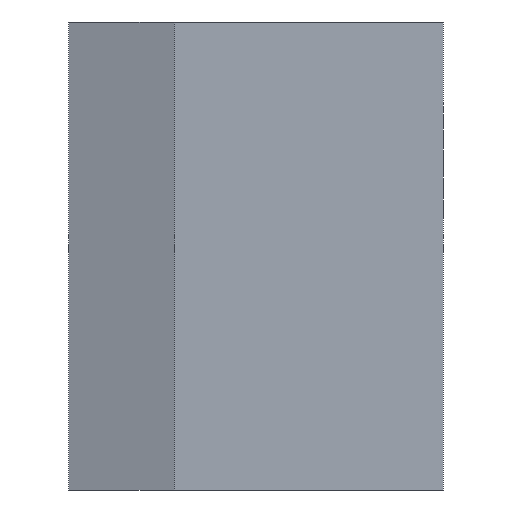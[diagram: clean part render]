
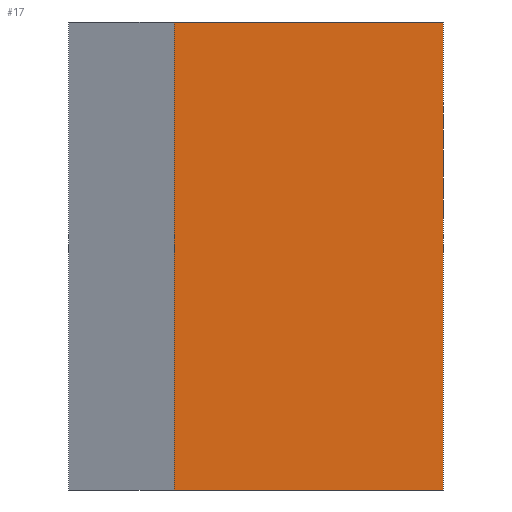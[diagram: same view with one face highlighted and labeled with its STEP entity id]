
A CAD part, front view. The second image highlights one B-rep face of the part: STEP entity #17.
In plain terms, the highlighted planar face has unit normal (0, -1, 0).
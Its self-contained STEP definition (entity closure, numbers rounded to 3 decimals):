
#17 = ADVANCED_FACE('',(#18),#32,.T.);
#18 = FACE_BOUND('',#19,.T.);
#19 = EDGE_LOOP('',(#20,#55,#83,#111));
#20 = ORIENTED_EDGE('',*,*,#21,.T.);
#21 = EDGE_CURVE('',#22,#24,#26,.T.);
#22 = VERTEX_POINT('',#23);
#23 = CARTESIAN_POINT('',(17.,-124.823,-112.54));
#24 = VERTEX_POINT('',#25);
#25 = CARTESIAN_POINT('',(17.,-124.823,-102.54));
#26 = SURFACE_CURVE('',#27,(#31,#43),.PCURVE_S1.);
#27 = LINE('',#28,#29);
#28 = CARTESIAN_POINT('',(17.,-124.823,-112.54));
#29 = VECTOR('',#30,1.);
#30 = DIRECTION('',(0.,0.,1.));
#31 = PCURVE('',#32,#37);
#32 = PLANE('',#33);
#33 = AXIS2_PLACEMENT_3D('',#34,#35,#36);
#34 = CARTESIAN_POINT('',(17.,-124.823,-112.54));
#35 = DIRECTION('',(0.,-1.,0.));
#36 = DIRECTION('',(-1.,0.,0.));
#37 = DEFINITIONAL_REPRESENTATION('',(#38),#42);
#38 = LINE('',#39,#40);
#39 = CARTESIAN_POINT('',(0.,0.));
#40 = VECTOR('',#41,1.);
#41 = DIRECTION('',(0.,-1.));
#42 = ( GEOMETRIC_REPRESENTATION_CONTEXT(2) 
PARAMETRIC_REPRESENTATION_CONTEXT() REPRESENTATION_CONTEXT('2D SPACE',''
  ) );
#43 = PCURVE('',#44,#49);
#44 = PLANE('',#45);
#45 = AXIS2_PLACEMENT_3D('',#46,#47,#48);
#46 = CARTESIAN_POINT('',(17.,-31.823,-112.54));
#47 = DIRECTION('',(1.,0.,0.));
#48 = DIRECTION('',(0.,-1.,0.));
#49 = DEFINITIONAL_REPRESENTATION('',(#50),#54);
#50 = LINE('',#51,#52);
#51 = CARTESIAN_POINT('',(93.,0.));
#52 = VECTOR('',#53,1.);
#53 = DIRECTION('',(0.,-1.));
#54 = ( GEOMETRIC_REPRESENTATION_CONTEXT(2) 
PARAMETRIC_REPRESENTATION_CONTEXT() REPRESENTATION_CONTEXT('2D SPACE',''
  ) );
#55 = ORIENTED_EDGE('',*,*,#56,.T.);
#56 = EDGE_CURVE('',#24,#57,#59,.T.);
#57 = VERTEX_POINT('',#58);
#58 = CARTESIAN_POINT('',(11.25,-124.823,-102.54));
#59 = SURFACE_CURVE('',#60,(#64,#71),.PCURVE_S1.);
#60 = LINE('',#61,#62);
#61 = CARTESIAN_POINT('',(17.,-124.823,-102.54));
#62 = VECTOR('',#63,1.);
#63 = DIRECTION('',(-1.,0.,0.));
#64 = PCURVE('',#32,#65);
#65 = DEFINITIONAL_REPRESENTATION('',(#66),#70);
#66 = LINE('',#67,#68);
#67 = CARTESIAN_POINT('',(0.,-10.));
#68 = VECTOR('',#69,1.);
#69 = DIRECTION('',(1.,0.));
#70 = ( GEOMETRIC_REPRESENTATION_CONTEXT(2) 
PARAMETRIC_REPRESENTATION_CONTEXT() REPRESENTATION_CONTEXT('2D SPACE',''
  ) );
#71 = PCURVE('',#72,#77);
#72 = PLANE('',#73);
#73 = AXIS2_PLACEMENT_3D('',#74,#75,#76);
#74 = CARTESIAN_POINT('',(12.484,-78.623,-102.54));
#75 = DIRECTION('',(0.,-0.,-1.));
#76 = DIRECTION('',(0.,-1.,0.));
#77 = DEFINITIONAL_REPRESENTATION('',(#78),#82);
#78 = LINE('',#79,#80);
#79 = CARTESIAN_POINT('',(46.2,-4.516));
#80 = VECTOR('',#81,1.);
#81 = DIRECTION('',(0.,1.));
#82 = ( GEOMETRIC_REPRESENTATION_CONTEXT(2) 
PARAMETRIC_REPRESENTATION_CONTEXT() REPRESENTATION_CONTEXT('2D SPACE',''
  ) );
#83 = ORIENTED_EDGE('',*,*,#84,.F.);
#84 = EDGE_CURVE('',#85,#57,#87,.T.);
#85 = VERTEX_POINT('',#86);
#86 = CARTESIAN_POINT('',(11.25,-124.823,-112.54));
#87 = SURFACE_CURVE('',#88,(#92,#99),.PCURVE_S1.);
#88 = LINE('',#89,#90);
#89 = CARTESIAN_POINT('',(11.25,-124.823,-112.54));
#90 = VECTOR('',#91,1.);
#91 = DIRECTION('',(0.,0.,1.));
#92 = PCURVE('',#32,#93);
#93 = DEFINITIONAL_REPRESENTATION('',(#94),#98);
#94 = LINE('',#95,#96);
#95 = CARTESIAN_POINT('',(5.75,0.));
#96 = VECTOR('',#97,1.);
#97 = DIRECTION('',(0.,-1.));
#98 = ( GEOMETRIC_REPRESENTATION_CONTEXT(2) 
PARAMETRIC_REPRESENTATION_CONTEXT() REPRESENTATION_CONTEXT('2D SPACE',''
  ) );
#99 = PCURVE('',#100,#105);
#100 = PLANE('',#101);
#101 = AXIS2_PLACEMENT_3D('',#102,#103,#104);
#102 = CARTESIAN_POINT('',(11.25,-124.823,-112.54));
#103 = DIRECTION('',(-1.,0.,0.));
#104 = DIRECTION('',(0.,1.,0.));
#105 = DEFINITIONAL_REPRESENTATION('',(#106),#110);
#106 = LINE('',#107,#108);
#107 = CARTESIAN_POINT('',(0.,0.));
#108 = VECTOR('',#109,1.);
#109 = DIRECTION('',(0.,-1.));
#110 = ( GEOMETRIC_REPRESENTATION_CONTEXT(2) 
PARAMETRIC_REPRESENTATION_CONTEXT() REPRESENTATION_CONTEXT('2D SPACE',''
  ) );
#111 = ORIENTED_EDGE('',*,*,#112,.F.);
#112 = EDGE_CURVE('',#22,#85,#113,.T.);
#113 = SURFACE_CURVE('',#114,(#118,#125),.PCURVE_S1.);
#114 = LINE('',#115,#116);
#115 = CARTESIAN_POINT('',(17.,-124.823,-112.54));
#116 = VECTOR('',#117,1.);
#117 = DIRECTION('',(-1.,0.,0.));
#118 = PCURVE('',#32,#119);
#119 = DEFINITIONAL_REPRESENTATION('',(#120),#124);
#120 = LINE('',#121,#122);
#121 = CARTESIAN_POINT('',(0.,0.));
#122 = VECTOR('',#123,1.);
#123 = DIRECTION('',(1.,0.));
#124 = ( GEOMETRIC_REPRESENTATION_CONTEXT(2) 
PARAMETRIC_REPRESENTATION_CONTEXT() REPRESENTATION_CONTEXT('2D SPACE',''
  ) );
#125 = PCURVE('',#126,#131);
#126 = PLANE('',#127);
#127 = AXIS2_PLACEMENT_3D('',#128,#129,#130);
#128 = CARTESIAN_POINT('',(12.484,-78.623,-112.54));
#129 = DIRECTION('',(0.,-0.,-1.));
#130 = DIRECTION('',(0.,-1.,0.));
#131 = DEFINITIONAL_REPRESENTATION('',(#132),#136);
#132 = LINE('',#133,#134);
#133 = CARTESIAN_POINT('',(46.2,-4.516));
#134 = VECTOR('',#135,1.);
#135 = DIRECTION('',(0.,1.));
#136 = ( GEOMETRIC_REPRESENTATION_CONTEXT(2) 
PARAMETRIC_REPRESENTATION_CONTEXT() REPRESENTATION_CONTEXT('2D SPACE',''
  ) );
